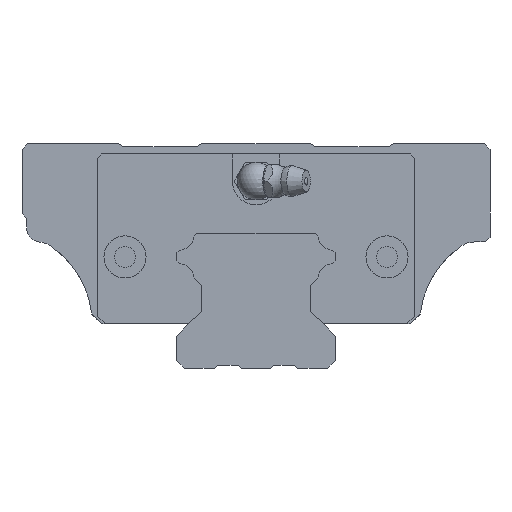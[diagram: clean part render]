
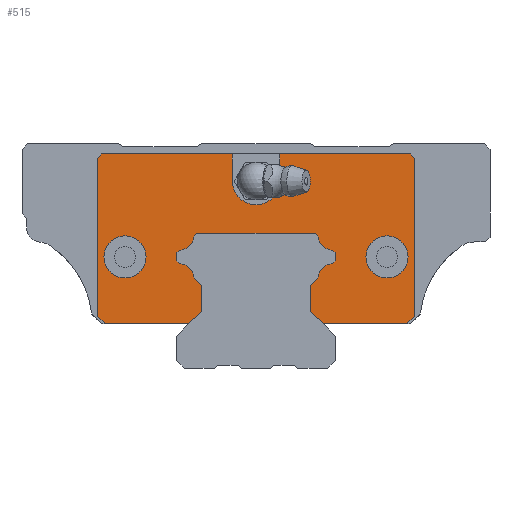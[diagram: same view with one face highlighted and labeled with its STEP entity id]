
A CAD part, front view. The second image highlights one B-rep face of the part: STEP entity #515.
In plain terms, the highlighted planar face has unit normal (0, -1, 0).
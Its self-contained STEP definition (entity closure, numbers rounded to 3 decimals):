
#210=FACE_BOUND('',#1065,.T.);
#211=FACE_BOUND('',#1066,.T.);
#332=CIRCLE('',#3973,3.5);
#334=CIRCLE('',#3979,3.5);
#336=CIRCLE('',#3985,3.5);
#338=CIRCLE('',#3991,3.5);
#351=CIRCLE('',#4040,4.5);
#352=CIRCLE('',#4041,4.5);
#353=CIRCLE('',#4042,5.05);
#515=ADVANCED_FACE('',(#210,#211,#858),#682,.F.);
#682=PLANE('',#4043);
#858=FACE_OUTER_BOUND('',#1067,.T.);
#1065=EDGE_LOOP('',(#1756));
#1066=EDGE_LOOP('',(#1757));
#1067=EDGE_LOOP('',(#1758,#1759,#1760,#1761,#1762,#1763,#1764,#1765,#1766,
#1767,#1768,#1769,#1770,#1771,#1772,#1773,#1774,#1775,#1776,#1777,#1778,
#1779,#1780,#1781,#1782,#1783,#1784,#1785,#1786,#1787,#1788,#1789));
#1756=ORIENTED_EDGE('',*,*,#2930,.F.);
#1757=ORIENTED_EDGE('',*,*,#2931,.F.);
#1758=ORIENTED_EDGE('',*,*,#2932,.F.);
#1759=ORIENTED_EDGE('',*,*,#2933,.F.);
#1760=ORIENTED_EDGE('',*,*,#2934,.T.);
#1761=ORIENTED_EDGE('',*,*,#2927,.F.);
#1762=ORIENTED_EDGE('',*,*,#2935,.F.);
#1763=ORIENTED_EDGE('',*,*,#2936,.F.);
#1764=ORIENTED_EDGE('',*,*,#2937,.T.);
#1765=ORIENTED_EDGE('',*,*,#2788,.T.);
#1766=ORIENTED_EDGE('',*,*,#2793,.T.);
#1767=ORIENTED_EDGE('',*,*,#2796,.F.);
#1768=ORIENTED_EDGE('',*,*,#2799,.F.);
#1769=ORIENTED_EDGE('',*,*,#2802,.T.);
#1770=ORIENTED_EDGE('',*,*,#2805,.F.);
#1771=ORIENTED_EDGE('',*,*,#2808,.F.);
#1772=ORIENTED_EDGE('',*,*,#2811,.T.);
#1773=ORIENTED_EDGE('',*,*,#2814,.T.);
#1774=ORIENTED_EDGE('',*,*,#2817,.T.);
#1775=ORIENTED_EDGE('',*,*,#2820,.T.);
#1776=ORIENTED_EDGE('',*,*,#2823,.F.);
#1777=ORIENTED_EDGE('',*,*,#2826,.T.);
#1778=ORIENTED_EDGE('',*,*,#2829,.F.);
#1779=ORIENTED_EDGE('',*,*,#2832,.T.);
#1780=ORIENTED_EDGE('',*,*,#2835,.T.);
#1781=ORIENTED_EDGE('',*,*,#2838,.T.);
#1782=ORIENTED_EDGE('',*,*,#2841,.T.);
#1783=ORIENTED_EDGE('',*,*,#2844,.T.);
#1784=ORIENTED_EDGE('',*,*,#2847,.F.);
#1785=ORIENTED_EDGE('',*,*,#2851,.F.);
#1786=ORIENTED_EDGE('',*,*,#2938,.T.);
#1787=ORIENTED_EDGE('',*,*,#2939,.F.);
#1788=ORIENTED_EDGE('',*,*,#2940,.F.);
#1789=ORIENTED_EDGE('',*,*,#2924,.F.);
#2375=VERTEX_POINT('',#5826);
#2376=VERTEX_POINT('',#5828);
#2379=VERTEX_POINT('',#5836);
#2381=VERTEX_POINT('',#5842);
#2383=VERTEX_POINT('',#5848);
#2385=VERTEX_POINT('',#5854);
#2387=VERTEX_POINT('',#5860);
#2389=VERTEX_POINT('',#5866);
#2391=VERTEX_POINT('',#5872);
#2393=VERTEX_POINT('',#5878);
#2395=VERTEX_POINT('',#5884);
#2397=VERTEX_POINT('',#5890);
#2399=VERTEX_POINT('',#5896);
#2401=VERTEX_POINT('',#5902);
#2403=VERTEX_POINT('',#5908);
#2405=VERTEX_POINT('',#5914);
#2407=VERTEX_POINT('',#5920);
#2409=VERTEX_POINT('',#5926);
#2411=VERTEX_POINT('',#5932);
#2413=VERTEX_POINT('',#5938);
#2415=VERTEX_POINT('',#5944);
#2418=VERTEX_POINT('',#5952);
#2465=VERTEX_POINT('',#6103);
#2466=VERTEX_POINT('',#6105);
#2467=VERTEX_POINT('',#6108);
#2468=VERTEX_POINT('',#6110);
#2470=VERTEX_POINT('',#6116);
#2471=VERTEX_POINT('',#6118);
#2472=VERTEX_POINT('',#6120);
#2473=VERTEX_POINT('',#6122);
#2474=VERTEX_POINT('',#6125);
#2475=VERTEX_POINT('',#6127);
#2476=VERTEX_POINT('',#6130);
#2477=VERTEX_POINT('',#6132);
#2788=EDGE_CURVE('',#2376,#2375,#3236,.T.);
#2793=EDGE_CURVE('',#2375,#2379,#3241,.T.);
#2796=EDGE_CURVE('',#2381,#2379,#3244,.T.);
#2799=EDGE_CURVE('',#2383,#2381,#3247,.T.);
#2802=EDGE_CURVE('',#2383,#2385,#332,.T.);
#2805=EDGE_CURVE('',#2387,#2385,#3251,.T.);
#2808=EDGE_CURVE('',#2389,#2387,#3254,.T.);
#2811=EDGE_CURVE('',#2389,#2391,#3257,.T.);
#2814=EDGE_CURVE('',#2391,#2393,#334,.T.);
#2817=EDGE_CURVE('',#2393,#2395,#3261,.T.);
#2820=EDGE_CURVE('',#2395,#2397,#3264,.T.);
#2823=EDGE_CURVE('',#2399,#2397,#3267,.T.);
#2826=EDGE_CURVE('',#2399,#2401,#336,.T.);
#2829=EDGE_CURVE('',#2403,#2401,#3271,.T.);
#2832=EDGE_CURVE('',#2403,#2405,#3274,.T.);
#2835=EDGE_CURVE('',#2405,#2407,#3277,.T.);
#2838=EDGE_CURVE('',#2407,#2409,#338,.T.);
#2841=EDGE_CURVE('',#2409,#2411,#3281,.T.);
#2844=EDGE_CURVE('',#2411,#2413,#3284,.T.);
#2847=EDGE_CURVE('',#2415,#2413,#3287,.T.);
#2851=EDGE_CURVE('',#2418,#2415,#3291,.T.);
#2924=EDGE_CURVE('',#2465,#2466,#3352,.T.);
#2927=EDGE_CURVE('',#2467,#2468,#3355,.T.);
#2930=EDGE_CURVE('',#2470,#2470,#351,.T.);
#2931=EDGE_CURVE('',#2471,#2471,#352,.T.);
#2932=EDGE_CURVE('',#2472,#2465,#3358,.T.);
#2933=EDGE_CURVE('',#2473,#2472,#353,.T.);
#2934=EDGE_CURVE('',#2473,#2468,#3359,.T.);
#2935=EDGE_CURVE('',#2474,#2467,#3360,.T.);
#2936=EDGE_CURVE('',#2475,#2474,#3361,.T.);
#2937=EDGE_CURVE('',#2475,#2376,#3362,.T.);
#2938=EDGE_CURVE('',#2418,#2476,#3363,.T.);
#2939=EDGE_CURVE('',#2477,#2476,#3364,.T.);
#2940=EDGE_CURVE('',#2466,#2477,#3365,.T.);
#3236=LINE('',#5827,#3592);
#3241=LINE('',#5837,#3597);
#3244=LINE('',#5843,#3600);
#3247=LINE('',#5849,#3603);
#3251=LINE('',#5861,#3607);
#3254=LINE('',#5867,#3610);
#3257=LINE('',#5873,#3613);
#3261=LINE('',#5885,#3617);
#3264=LINE('',#5891,#3620);
#3267=LINE('',#5897,#3623);
#3271=LINE('',#5909,#3627);
#3274=LINE('',#5915,#3630);
#3277=LINE('',#5921,#3633);
#3281=LINE('',#5933,#3637);
#3284=LINE('',#5939,#3640);
#3287=LINE('',#5945,#3643);
#3291=LINE('',#5953,#3647);
#3352=LINE('',#6104,#3708);
#3355=LINE('',#6109,#3711);
#3358=LINE('',#6119,#3714);
#3359=LINE('',#6123,#3715);
#3360=LINE('',#6124,#3716);
#3361=LINE('',#6126,#3717);
#3362=LINE('',#6128,#3718);
#3363=LINE('',#6129,#3719);
#3364=LINE('',#6131,#3720);
#3365=LINE('',#6133,#3721);
#3592=VECTOR('',#4522,1.);
#3597=VECTOR('',#4529,1.);
#3600=VECTOR('',#4534,1.);
#3603=VECTOR('',#4539,1.);
#3607=VECTOR('',#4551,1.);
#3610=VECTOR('',#4556,1.);
#3613=VECTOR('',#4561,1.);
#3617=VECTOR('',#4573,1.);
#3620=VECTOR('',#4578,1.);
#3623=VECTOR('',#4583,1.);
#3627=VECTOR('',#4595,1.);
#3630=VECTOR('',#4600,1.);
#3633=VECTOR('',#4605,1.);
#3637=VECTOR('',#4617,1.);
#3640=VECTOR('',#4622,1.);
#3643=VECTOR('',#4627,1.);
#3647=VECTOR('',#4633,1.);
#3708=VECTOR('',#4780,1.);
#3711=VECTOR('',#4783,1.);
#3714=VECTOR('',#4792,1.);
#3715=VECTOR('',#4795,1.);
#3716=VECTOR('',#4796,1.);
#3717=VECTOR('',#4797,1.);
#3718=VECTOR('',#4798,1.);
#3719=VECTOR('',#4799,1.);
#3720=VECTOR('',#4800,1.);
#3721=VECTOR('',#4801,1.);
#3973=AXIS2_PLACEMENT_3D('',#5855,#4545,#4546);
#3979=AXIS2_PLACEMENT_3D('',#5879,#4567,#4568);
#3985=AXIS2_PLACEMENT_3D('',#5903,#4589,#4590);
#3991=AXIS2_PLACEMENT_3D('',#5927,#4611,#4612);
#4040=AXIS2_PLACEMENT_3D('',#6115,#4788,#4789);
#4041=AXIS2_PLACEMENT_3D('',#6117,#4790,#4791);
#4042=AXIS2_PLACEMENT_3D('',#6121,#4793,#4794);
#4043=AXIS2_PLACEMENT_3D('',#6134,#4802,#4803);
#4522=DIRECTION('',(1.,0.,0.));
#4529=DIRECTION('',(0.707,0.,0.707));
#4534=DIRECTION('',(0.,0.,-1.));
#4539=DIRECTION('',(0.707,0.,-0.707));
#4545=DIRECTION('',(0.,-1.,0.));
#4546=DIRECTION('',(1.,0.,0.));
#4551=DIRECTION('',(0.707,0.,-0.707));
#4556=DIRECTION('',(0.,0.,-1.));
#4561=DIRECTION('',(0.707,0.,0.707));
#4567=DIRECTION('',(0.,-1.,0.));
#4568=DIRECTION('',(1.,0.,0.));
#4573=DIRECTION('',(0.707,0.,0.707));
#4578=DIRECTION('',(1.,0.,0.));
#4583=DIRECTION('',(-0.707,0.,0.707));
#4589=DIRECTION('',(0.,-1.,0.));
#4590=DIRECTION('',(1.,0.,0.));
#4595=DIRECTION('',(-0.707,0.,0.707));
#4600=DIRECTION('',(0.,0.,-1.));
#4605=DIRECTION('',(-0.707,0.,-0.707));
#4611=DIRECTION('',(0.,-1.,0.));
#4612=DIRECTION('',(1.,0.,0.));
#4617=DIRECTION('',(-0.707,0.,-0.707));
#4622=DIRECTION('',(0.,0.,-1.));
#4627=DIRECTION('',(-0.707,0.,0.707));
#4633=DIRECTION('',(-1.,0.,0.));
#4780=DIRECTION('',(1.,0.,0.));
#4783=DIRECTION('',(1.,0.,0.));
#4788=DIRECTION('',(0.,-1.,0.));
#4789=DIRECTION('',(0.,0.,-1.));
#4790=DIRECTION('',(0.,-1.,0.));
#4791=DIRECTION('',(0.,0.,-1.));
#4792=DIRECTION('',(0.,0.,1.));
#4793=DIRECTION('',(0.,-1.,0.));
#4794=DIRECTION('',(1.,0.,0.));
#4795=DIRECTION('',(0.,0.,1.));
#4796=DIRECTION('',(0.707,0.,0.707));
#4797=DIRECTION('',(0.,0.,1.));
#4798=DIRECTION('',(0.707,0.,-0.707));
#4799=DIRECTION('',(0.707,0.,0.707));
#4800=DIRECTION('',(0.,0.,-1.));
#4801=DIRECTION('',(0.707,0.,-0.707));
#4802=DIRECTION('',(0.,1.,0.));
#4803=DIRECTION('',(0.,0.,-1.));
#5826=CARTESIAN_POINT('',(-14.359,-99.1,-40.5));
#5827=CARTESIAN_POINT('',(-32.218,-99.1,-40.5));
#5828=CARTESIAN_POINT('',(-32.218,-99.1,-40.5));
#5836=CARTESIAN_POINT('',(-11.7,-99.1,-37.841));
#5837=CARTESIAN_POINT('',(-14.359,-99.1,-40.5));
#5842=CARTESIAN_POINT('',(-11.7,-99.1,-32.259));
#5843=CARTESIAN_POINT('',(-11.7,-99.1,-32.259));
#5848=CARTESIAN_POINT('',(-13.204,-99.1,-30.754));
#5849=CARTESIAN_POINT('',(-13.204,-99.1,-30.754));
#5854=CARTESIAN_POINT('',(-16.354,-99.1,-27.604));
#5855=CARTESIAN_POINT('',(-16.688,-99.1,-31.088));
#5860=CARTESIAN_POINT('',(-16.9,-99.1,-27.059));
#5861=CARTESIAN_POINT('',(-16.9,-99.1,-27.059));
#5866=CARTESIAN_POINT('',(-16.9,-99.1,-25.341));
#5867=CARTESIAN_POINT('',(-16.9,-99.1,-25.341));
#5872=CARTESIAN_POINT('',(-16.354,-99.1,-24.796));
#5873=CARTESIAN_POINT('',(-16.9,-99.1,-25.341));
#5878=CARTESIAN_POINT('',(-13.204,-99.1,-21.646));
#5879=CARTESIAN_POINT('',(-16.688,-99.1,-21.312));
#5884=CARTESIAN_POINT('',(-12.659,-99.1,-21.1));
#5885=CARTESIAN_POINT('',(-13.204,-99.1,-21.646));
#5890=CARTESIAN_POINT('',(12.659,-99.1,-21.1));
#5891=CARTESIAN_POINT('',(-12.659,-99.1,-21.1));
#5896=CARTESIAN_POINT('',(13.204,-99.1,-21.646));
#5897=CARTESIAN_POINT('',(13.204,-99.1,-21.646));
#5902=CARTESIAN_POINT('',(16.354,-99.1,-24.796));
#5903=CARTESIAN_POINT('',(16.688,-99.1,-21.312));
#5908=CARTESIAN_POINT('',(16.9,-99.1,-25.341));
#5909=CARTESIAN_POINT('',(16.9,-99.1,-25.341));
#5914=CARTESIAN_POINT('',(16.9,-99.1,-27.059));
#5915=CARTESIAN_POINT('',(16.9,-99.1,-25.341));
#5920=CARTESIAN_POINT('',(16.354,-99.1,-27.604));
#5921=CARTESIAN_POINT('',(16.9,-99.1,-27.059));
#5926=CARTESIAN_POINT('',(13.204,-99.1,-30.754));
#5927=CARTESIAN_POINT('',(16.688,-99.1,-31.088));
#5932=CARTESIAN_POINT('',(11.7,-99.1,-32.259));
#5933=CARTESIAN_POINT('',(13.204,-99.1,-30.754));
#5938=CARTESIAN_POINT('',(11.7,-99.1,-37.841));
#5939=CARTESIAN_POINT('',(11.7,-99.1,-32.259));
#5944=CARTESIAN_POINT('',(14.359,-99.1,-40.5));
#5945=CARTESIAN_POINT('',(14.359,-99.1,-40.5));
#5952=CARTESIAN_POINT('',(32.217,-99.1,-40.5));
#5953=CARTESIAN_POINT('',(32.217,-99.1,-40.5));
#6103=CARTESIAN_POINT('',(5.05,-99.1,-4.2));
#6104=CARTESIAN_POINT('',(-32.917,-99.1,-4.2));
#6105=CARTESIAN_POINT('',(32.917,-99.1,-4.2));
#6108=CARTESIAN_POINT('',(-32.917,-99.1,-4.2));
#6109=CARTESIAN_POINT('',(-32.917,-99.1,-4.2));
#6110=CARTESIAN_POINT('',(-5.05,-99.1,-4.2));
#6115=CARTESIAN_POINT('',(-28.,-99.1,-26.2));
#6116=CARTESIAN_POINT('',(-28.,-99.1,-30.7));
#6117=CARTESIAN_POINT('',(28.,-99.1,-26.2));
#6118=CARTESIAN_POINT('',(28.,-99.1,-30.7));
#6119=CARTESIAN_POINT('',(5.05,-99.1,-10.));
#6120=CARTESIAN_POINT('',(5.05,-99.1,-10.));
#6121=CARTESIAN_POINT('',(0.,-99.1,-10.));
#6122=CARTESIAN_POINT('',(-5.05,-99.1,-10.));
#6123=CARTESIAN_POINT('',(-5.05,-99.1,-10.));
#6124=CARTESIAN_POINT('',(-33.8,-99.1,-5.083));
#6125=CARTESIAN_POINT('',(-33.8,-99.1,-5.083));
#6126=CARTESIAN_POINT('',(-33.8,-99.1,-38.918));
#6127=CARTESIAN_POINT('',(-33.8,-99.1,-38.918));
#6128=CARTESIAN_POINT('',(-33.8,-99.1,-38.918));
#6129=CARTESIAN_POINT('',(32.217,-99.1,-40.5));
#6130=CARTESIAN_POINT('',(33.8,-99.1,-38.917));
#6131=CARTESIAN_POINT('',(33.8,-99.1,-5.083));
#6132=CARTESIAN_POINT('',(33.8,-99.1,-5.083));
#6133=CARTESIAN_POINT('',(32.917,-99.1,-4.2));
#6134=CARTESIAN_POINT('',(16.688,-99.1,-31.088));
